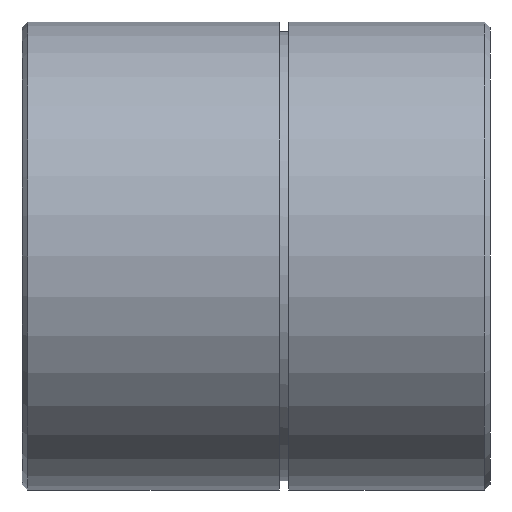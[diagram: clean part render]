
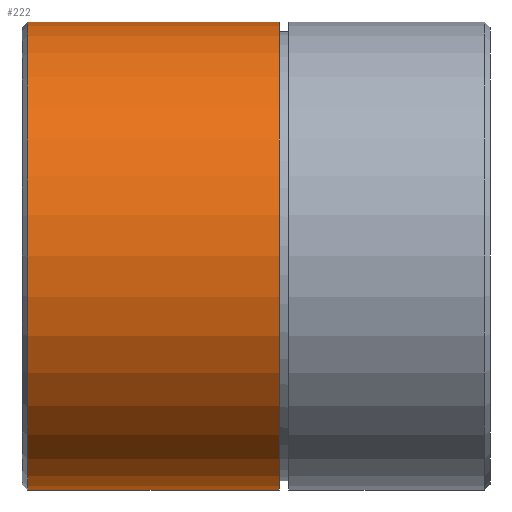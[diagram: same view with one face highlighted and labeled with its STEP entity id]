
A CAD part, left-side view. The second image highlights one B-rep face of the part: STEP entity #222.
In plain terms, the highlighted cylindrical face has radius 12.5 mm (diameter 25 mm), a partial arc.
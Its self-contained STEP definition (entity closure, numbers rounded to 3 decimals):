
#41 = ORIENTED_EDGE ( 'NONE', *, *, #83, .F. ) ;
#42 = DIRECTION ( 'NONE',  ( 0., -1., 0. ) ) ;
#75 = DIRECTION ( 'NONE',  ( 0., 0., -1. ) ) ;
#76 = EDGE_CURVE ( 'NONE', #403, #375, #548, .T. ) ;
#78 = CARTESIAN_POINT ( 'NONE',  ( 0., 24.7, 12.5 ) ) ;
#83 = EDGE_CURVE ( 'NONE', #207, #111, #398, .T. ) ;
#111 = VERTEX_POINT ( 'NONE', #302 ) ;
#160 = EDGE_CURVE ( 'NONE', #375, #111, #444, .T. ) ;
#168 = LINE ( 'NONE', #695, #593 ) ;
#202 = EDGE_CURVE ( 'NONE', #403, #207, #168, .T. ) ;
#207 = VERTEX_POINT ( 'NONE', #641 ) ;
#212 = CARTESIAN_POINT ( 'NONE',  ( 0., 25., 0. ) ) ;
#222 = ADVANCED_FACE ( 'NONE', ( #534 ), #339, .T. ) ;
#240 = DIRECTION ( 'NONE',  ( 0., 0., 1. ) ) ;
#242 = ORIENTED_EDGE ( 'NONE', *, *, #202, .F. ) ;
#256 = CARTESIAN_POINT ( 'NONE',  ( 0., 11.25, 0. ) ) ;
#268 = ORIENTED_EDGE ( 'NONE', *, *, #76, .T. ) ;
#269 = AXIS2_PLACEMENT_3D ( 'NONE', #512, #515, #240 ) ;
#302 = CARTESIAN_POINT ( 'NONE',  ( 0., 11.25, -12.5 ) ) ;
#305 = DIRECTION ( 'NONE',  ( 0., -1., 0. ) ) ;
#322 = ORIENTED_EDGE ( 'NONE', *, *, #160, .T. ) ;
#339 = CYLINDRICAL_SURFACE ( 'NONE', #400, 12.5 ) ;
#350 = AXIS2_PLACEMENT_3D ( 'NONE', #256, #305, #627 ) ;
#375 = VERTEX_POINT ( 'NONE', #468 ) ;
#396 = EDGE_LOOP ( 'NONE', ( #242, #268, #322, #41 ) ) ;
#398 = CIRCLE ( 'NONE', #350, 12.5 ) ;
#400 = AXIS2_PLACEMENT_3D ( 'NONE', #212, #42, #75 ) ;
#403 = VERTEX_POINT ( 'NONE', #78 ) ;
#420 = DIRECTION ( 'NONE',  ( 0., -1., 0. ) ) ;
#444 = LINE ( 'NONE', #639, #539 ) ;
#468 = CARTESIAN_POINT ( 'NONE',  ( 0., 24.7, -12.5 ) ) ;
#512 = CARTESIAN_POINT ( 'NONE',  ( 0., 24.7, 0. ) ) ;
#515 = DIRECTION ( 'NONE',  ( 0., -1., 0. ) ) ;
#533 = DIRECTION ( 'NONE',  ( 0., -1., 0. ) ) ;
#534 = FACE_OUTER_BOUND ( 'NONE', #396, .T. ) ;
#539 = VECTOR ( 'NONE', #420, 1000. ) ;
#548 = CIRCLE ( 'NONE', #269, 12.5 ) ;
#593 = VECTOR ( 'NONE', #533, 1000. ) ;
#627 = DIRECTION ( 'NONE',  ( 0., 0., -1. ) ) ;
#639 = CARTESIAN_POINT ( 'NONE',  ( 0., 25., -12.5 ) ) ;
#641 = CARTESIAN_POINT ( 'NONE',  ( 0., 11.25, 12.5 ) ) ;
#695 = CARTESIAN_POINT ( 'NONE',  ( 0., 25., 12.5 ) ) ;
